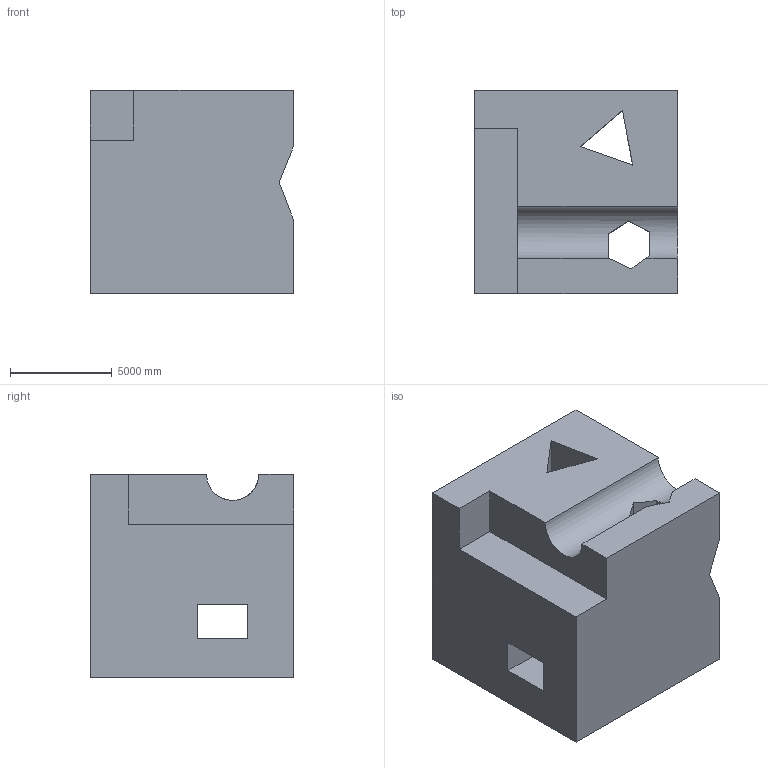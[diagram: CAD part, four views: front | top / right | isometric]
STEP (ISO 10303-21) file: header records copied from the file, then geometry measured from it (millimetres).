
FILE_DESCRIPTION (( 'STEP AP203' ), '1' );
FILE_NAME ('1504.STEP', '2022-08-26T10:21:57', ( 'user' ), ( '' ), 'SwSTEP 2.0', 'SolidWorks 2021', '' );
FILE_SCHEMA (( 'CONFIG_CONTROL_DESIGN' ));
Length unit declared in the file: centimetre
Products named in the file (1): 1504
Bounding box: 10000 x 10000 x 10000 mm (x, y, z)
Volume: 820548524379.8 mm3; surface area: 799680287.5 mm2
Topology: 1 solids, 1 shells, 30 faces, 94 edges, 62 vertices
Faces by surface type: plane 29, cylinder 1
Entity records: 1119 total; most frequent: CARTESIAN_POINT 199, ORIENTED_EDGE 188, DIRECTION 156, EDGE_CURVE 94, VECTOR 86, LINE 86, VERTEX_POINT 62, AXIS2_PLACEMENT_3D 35
